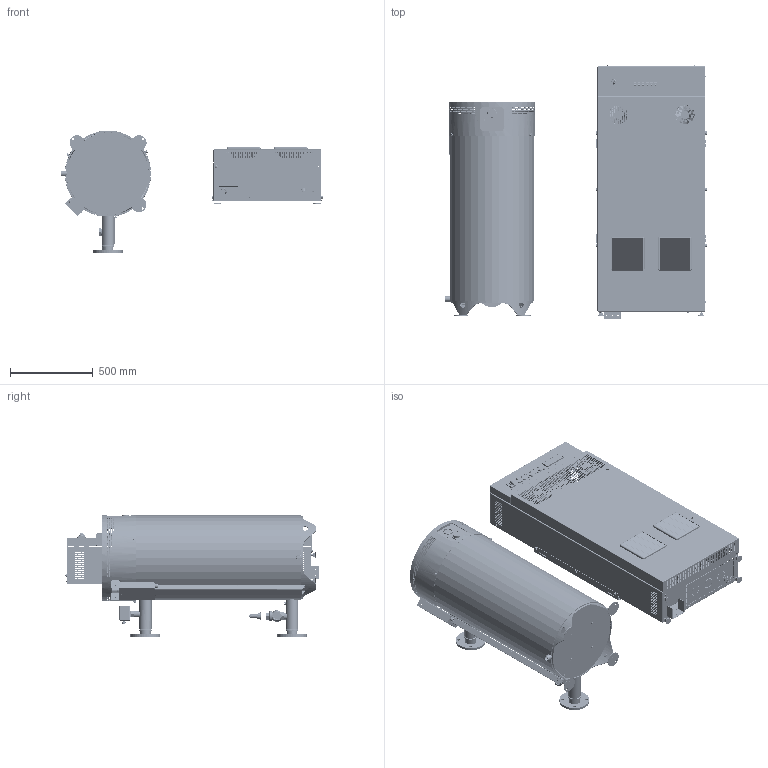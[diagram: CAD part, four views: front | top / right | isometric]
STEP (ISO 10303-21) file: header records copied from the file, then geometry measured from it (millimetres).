
FILE_DESCRIPTION(/* description */ (''),/* implementation_level */ '2;1');
FILE_NAME(/* name */ 'Z:\!!!Обмен файлами\Маркелова Л.В\Задача 193\325-350\Водонагреватель 325-350 кВт.stp',/* time_stamp */ '2023-07-11T10:53:28+03:00',/* author */ ('nvsk-constr2'),/* organization */ (''),/* preprocessor_version */ 'ST-DEVELOPER v18.1',/* originating_system */ 'Autodesk Inventor 2021',/* authorisation */ '');
FILE_SCHEMA (('AUTOMOTIVE_DESIGN { 1 0 10303 214 3 1 1 }'));
Products named in the file (3): Сборка12; 421457.012 ШАУ-500_Shrinkwrap_1; 621179.010 АВП-НП-14_S
hrinkwrap_1
Assembly tree (2 placements, depth 2):
  Сборка12
    421457.012 ШАУ-500_Shrinkwrap_1
    621179.010 АВП-НП-14_S
hrinkwrap_1
Bounding box: 1577.28 x 1527 x 739.85 mm (x, y, z)
Surface area: 17027021.6 mm2 (no closed solid volume)
Topology: 0 solids, 276 shells, 5462 faces, 17220 edges, 11764 vertices
Faces by surface type: plane 2779, cylinder 1942, cone 400, torus 170, bspline 124, sphere 47
Full cylindrical faces by diameter (mm): 2 x1, 3.242 x2, 3.5 x36, 4 x6, 4.317 x2, 4.4 x14, 4.5 x4, 4.9 x3, 5 x4, 5.9 x9, 6 x25, 6.5 x8, 6.647 x1, 7 x21, 7.119 x1, 7.375 x1, 7.834 x2, 8 x8, 8.376 x5, 8.5 x4, 8.7 x8, 8.8 x3, 9 x6, 9.188 x4, 9.936 x1, 10 x10, 11 x8, 11.433 x2, 11.5 x12, 11.63 x2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
Entity records: 224458 total; most frequent: CARTESIAN_POINT 60586, DIRECTION 32991, ORIENTED_EDGE 30823, EDGE_CURVE 17218, VERTEX_POINT 11764, AXIS2_PLACEMENT_3D 11691, LINE 9609, VECTOR 9609
